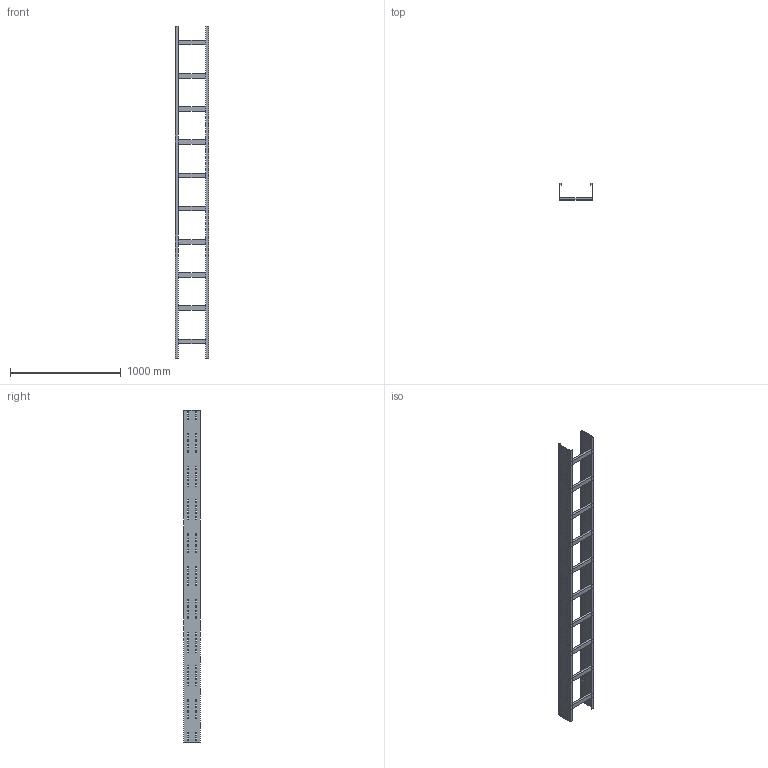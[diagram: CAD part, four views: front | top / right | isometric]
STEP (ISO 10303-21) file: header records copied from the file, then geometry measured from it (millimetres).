
FILE_DESCRIPTION (( 'STEP AP214' ), '1' );
FILE_NAME ('01J3F300.step', '2025-02-21T16:29:10', ( '' ), ( '' ), 'SwSTEP 2.0', 'SolidWorks 2023', '' );
FILE_SCHEMA (( 'AUTOMOTIVE_DESIGN' ));
Length unit declared in the file: millimetre
Products named in the file (3): TRAVERSINO_300; 01J3F300; LONGH.H150
Assembly tree (12 placements, depth 2):
  01J3F300
    LONGH.H150  x2
    TRAVERSINO_300  x10
Bounding box: 300 x 150 x 3000 mm (x, y, z)
Volume: 5577600 mm3; surface area: 2642288 mm2
Topology: 12 solids, 12 shells, 720 faces, 2088 edges, 1392 vertices
Faces by surface type: plane 720
Entity records: 11488 total; most frequent: CARTESIAN_POINT 2011, ORIENTED_EDGE 1992, DIRECTION 1698, LINE 996, EDGE_CURVE 996, VECTOR 996, VERTEX_POINT 664, EDGE_LOOP 496
